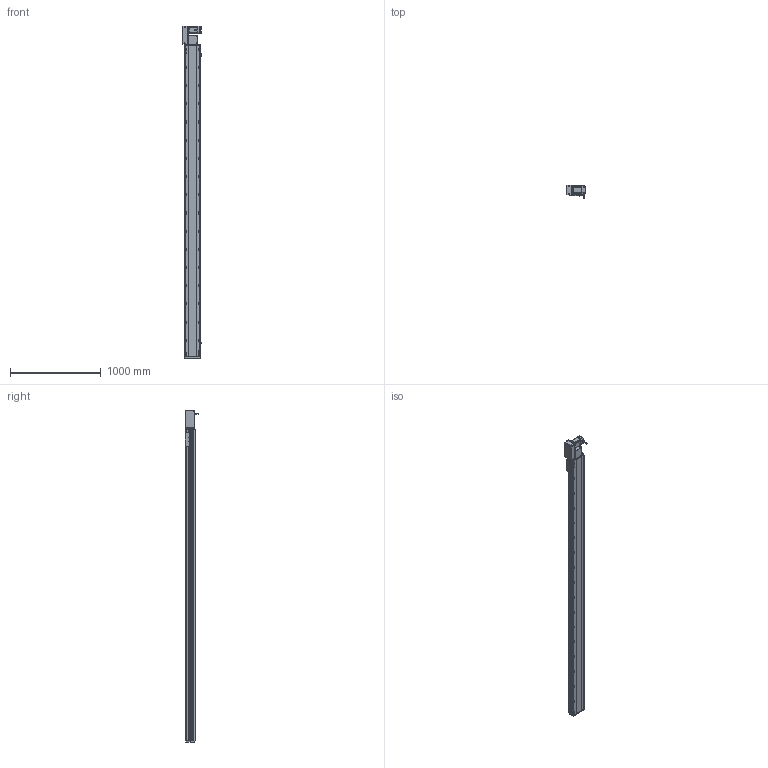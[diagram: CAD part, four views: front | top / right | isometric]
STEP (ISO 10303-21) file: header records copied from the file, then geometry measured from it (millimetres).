
FILE_DESCRIPTION (( 'STEP AP214' ), '1' );
FILE_NAME ('RTB17S-XX-3150-L-M75-C4.STEP', '2025-12-12T00:25:44', ( '' ), ( '' ), 'SwSTEP 2.0', 'SolidWorks 2018', '' );
FILE_SCHEMA (( 'AUTOMOTIVE_DESIGN' ));
Length unit declared in the file: millimetre
Products named in the file (15): RTB17S-L-001-耜醱啣^RTB17S-XX-XX-L-M75-C4; RTH13-BL-012覜茼え俋离^RTB17S-賑釱_RTB17S-XX-XX-L-M75-C4; RTB22S-GY-018P^RTB17S-L-々湍釱蚾饜-750W_RTB17S-XX-XX-L-M75-C4; RTB22S-GY-005P^RTB17S-L-々湍釱蚾饜-750W_RTB17S-XX-XX-L-M75-C4; RTB17S-L-004-賑釱^RTB17S-賑釱_RTB17S-XX-XX-L-M75-C4; RTB17S-賑釱^RTB17S-XX-XX-L-M75-C4; RTB17-R-011菁釱^RTB17S-XX-XX-L-M75-C4; RTB17S-XX-3150-L-M75-C4; EE672^RTB17S-XX-XX-L-M75-C4; RTB22S-GY-017P^RTB17S-L-々湍釱蚾饜-750W_RTB17S-XX-XX-L-M75-C4; RTB17S-L-007奻裔^RTB17S-XX-XX-L-M75-C4; RTB22S-GY-008-M75--萇儂啣^RTB17S-L-々湍釱蚾饜-750W_RTB17S-XX-XX-L-M75-C4; 750W萇儂^RTB17S-XX-XX-L-M75-C4; RTB17S-L-々湍釱蚾饜-750W^RTB17S-XX-XX-L-M75-C4; RMP17S-L-014-T20-P75--々湍釱^RTB17S-L-々湍釱蚾饜-750W_RTB17S-XX-XX-L-M75-C4
Assembly tree (17 placements, depth 3):
  RTB17S-XX-3150-L-M75-C4
    RTB17-R-011菁釱^RTB17S-XX-XX-L-M75-C4
    EE672^RTB17S-XX-XX-L-M75-C4  x3
    RTB17S-L-001-耜醱啣^RTB17S-XX-XX-L-M75-C4
    RTB17S-賑釱^RTB17S-XX-XX-L-M75-C4
      RTB17S-L-004-賑釱^RTB17S-賑釱_RTB17S-XX-XX-L-M75-C4
      RTH13-BL-012覜茼え俋离^RTB17S-賑釱_RTB17S-XX-XX-L-M75-C4
    RTB17S-L-007奻裔^RTB17S-XX-XX-L-M75-C4
    750W萇儂^RTB17S-XX-XX-L-M75-C4
    RTB17S-L-々湍釱蚾饜-750W^RTB17S-XX-XX-L-M75-C4
      RMP17S-L-014-T20-P75--々湍釱^RTB17S-L-々湍釱蚾饜-750W_RTB17S-XX-XX-L-M75-C4
      RTB22S-GY-005P^RTB17S-L-々湍釱蚾饜-750W_RTB17S-XX-XX-L-M75-C4
      RTB22S-GY-017P^RTB17S-L-々湍釱蚾饜-750W_RTB17S-XX-XX-L-M75-C4  x2
      RTB22S-GY-008-M75--萇儂啣^RTB17S-L-々湍釱蚾饜-750W_RTB17S-XX-XX-L-M75-C4
      RTB22S-GY-018P^RTB17S-L-々湍釱蚾饜-750W_RTB17S-XX-XX-L-M75-C4
Bounding box: 210.4 x 152.7 x 3649 mm (x, y, z)
Volume: 25641130.6 mm3; surface area: 4711826.9 mm2
Topology: 17 solids, 17 shells, 2265 faces, 6376 edges, 4130 vertices
Faces by surface type: plane 992, cylinder 857, bspline 294, cone 110, sphere 8, torus 4
Entity records: 66550 total; most frequent: CARTESIAN_POINT 19840, ORIENTED_EDGE 9596, DIRECTION 8852, EDGE_CURVE 4798, AXIS2_PLACEMENT_3D 3150, VERTEX_POINT 3134, VECTOR 2552, LINE 2552
